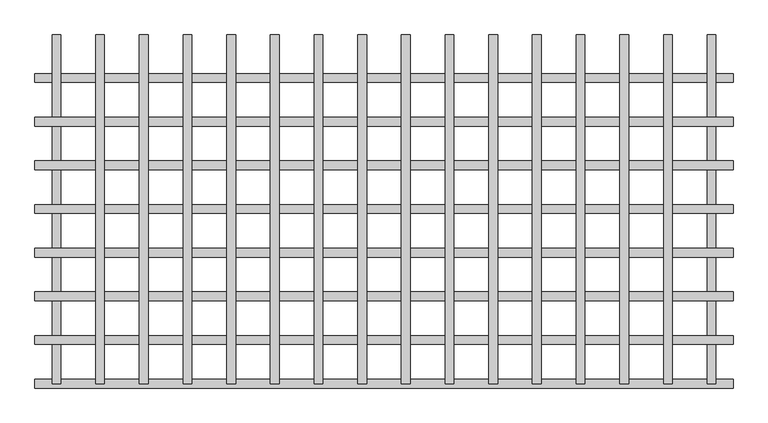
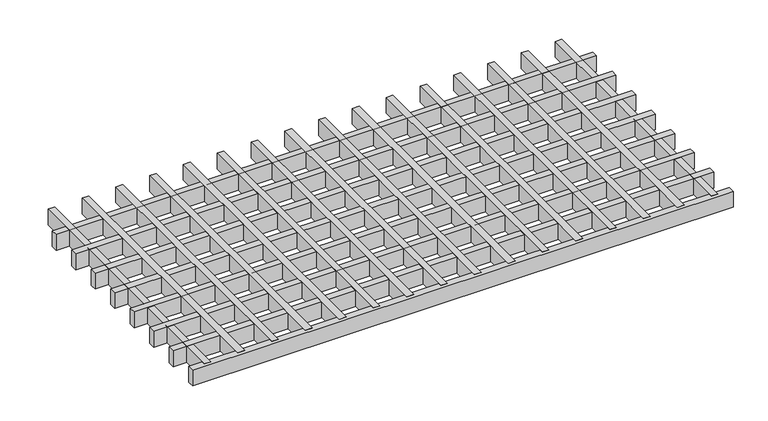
"""IFC4 building model written with IfcOpenShell, lengths in millimetres: proxy geometry, durlum_GEO_panel : durlum_GEO_15."""

import ifcopenshell
import ifcopenshell.guid

model = None  # the IFC model being written
_history = None  # IfcOwnerHistory: only IFC2X3 demands one
_inside = {}  # id of a spatial element -> (the spatial element, [elements in it])
_under = {}  # id of a project, library or spatial element -> (it, [spatial elements below it])
_declared = {}  # id of a project -> (the project, [libraries it declares])
_typed = {}  # id of a type object -> (the type object, [elements of that type])
_made_of = {}  # id of a material, layer set ... -> (it, [elements and type objects made of it])


def new_model(schema):
    """Start an empty IFC model of exactly this schema.

    Asked for "IFC4X3", IfcOpenShell would pick the latest addendum, in which some entities
    have other attributes; the version numbers below select the first issue.
    IFC2X3 requires an IfcOwnerHistory on every rooted entity: one is made here for all.
    """
    global model, _history
    if schema == "IFC4X3":
        model = ifcopenshell.file(schema_version=(4, 3, 0, 0))
    else:
        model = ifcopenshell.file(schema=schema)
    _inside.clear()
    _under.clear()
    _declared.clear()
    _typed.clear()
    _made_of.clear()
    _history = None
    if model.schema == "IFC2X3":
        org = make("IfcOrganization", Name="unknown")
        user = make(
            "IfcPersonAndOrganization",
            ThePerson=make("IfcPerson", FamilyName="unknown"),
            TheOrganization=org,
        )
        app = make(
            "IfcApplication",
            ApplicationDeveloper=org,
            Version="unknown",
            ApplicationFullName="unknown",
            ApplicationIdentifier="unknown",
        )
        _history = make(
            "IfcOwnerHistory",
            OwningUser=user,
            OwningApplication=app,
            ChangeAction="ADDED",
            CreationDate=0,
        )
    return model


def make(cls, **values):
    """One entity of the class cls with the attributes given. An attribute that is None is left unset."""
    return model.create_entity(
        cls, **{name: value for name, value in values.items() if value is not None}
    )


def rooted(cls, **values):
    """An entity with a GlobalId (a new one), such as an element, a storey or a relation."""
    return make(cls, GlobalId=ifcopenshell.guid.new(), OwnerHistory=_history, **values)


def si_unit(unit_type, name, prefix=None):
    """IfcSIUnit, for example si_unit("LENGTHUNIT", "METRE", prefix="MILLI")."""
    return make("IfcSIUnit", UnitType=unit_type, Prefix=prefix, Name=name)


def assignment(units):
    """IfcUnitAssignment: the units of a project."""
    return None if units is None else make("IfcUnitAssignment", Units=units)


def point(xyz):
    """IfcCartesianPoint."""
    return None if xyz is None else make("IfcCartesianPoint", Coordinates=xyz)


def direction(xyz):
    """IfcDirection."""
    return None if xyz is None else make("IfcDirection", DirectionRatios=xyz)


def frame(location, z_axis=None, x_axis=None):
    """IfcAxis2Placement3D, a coordinate frame: its origin and axes. An axis left out is left unset."""
    return make(
        "IfcAxis2Placement3D",
        Location=point(location),
        Axis=direction(z_axis),
        RefDirection=direction(x_axis),
    )


def origin():
    """The frame at (0, 0, 0) with its axes left unset."""
    return frame((0.0, 0.0, 0.0))


def origin_with_axes():
    """The frame at (0, 0, 0) with the z axis (0, 0, 1) and the x axis (1, 0, 0) written out."""
    return frame((0.0, 0.0, 0.0), z_axis=(0.0, 0.0, 1.0), x_axis=(1.0, 0.0, 0.0))


def place(relative_to, where):
    """IfcLocalPlacement: puts the frame where relative to a parent placement (None: the world)."""
    return make(
        "IfcLocalPlacement", PlacementRelTo=relative_to, RelativePlacement=where
    )


def context(
    kind, dimensions, precision=None, world=None, true_north=None, identifier=None
):
    """IfcGeometricRepresentationContext, for example the 3D "Model" context."""
    return make(
        "IfcGeometricRepresentationContext",
        ContextIdentifier=identifier,
        ContextType=kind,
        CoordinateSpaceDimension=dimensions,
        Precision=precision,
        WorldCoordinateSystem=world,
        TrueNorth=true_north,
    )


def project(units=None, contexts=None):
    """IfcProject with its units and contexts."""
    return rooted(
        "IfcProject",
        Name="project",
        RepresentationContexts=contexts,
        UnitsInContext=assignment(units),
    )


def spatial(cls, under=None, at=None, **own):
    """A site, building, storey or space (cls), placed at a placement, below another one or the project."""
    s = rooted(cls, ObjectPlacement=at, **own)
    if under is not None:
        _under.setdefault(under.id(), (under, []))[1].append(s)
    return s


def polyline(points):
    """IfcPolyline through the points."""
    return make("IfcPolyline", Points=[point(p) for p in points])


def outline(outer, holes=None, kind="AREA"):
    """IfcArbitraryClosedProfileDef: a profile drawn as a closed curve; with holes, ...WithVoids."""
    if holes is None:
        return make("IfcArbitraryClosedProfileDef", ProfileType=kind, OuterCurve=outer)
    return make(
        "IfcArbitraryProfileDefWithVoids",
        ProfileType=kind,
        OuterCurve=outer,
        InnerCurves=holes,
    )


def extrude(swept, where, along, depth):
    """IfcExtrudedAreaSolid: the profile swept, set in the frame where, extruded along a direction by depth."""
    return make(
        "IfcExtrudedAreaSolid",
        SweptArea=swept,
        Position=where,
        ExtrudedDirection=direction(along),
        Depth=depth,
    )


def shape(context_of_items, identifier, shape_type, items):
    """IfcShapeRepresentation: the items that make up one representation, for example the "Body"."""
    return make(
        "IfcShapeRepresentation",
        ContextOfItems=context_of_items,
        RepresentationIdentifier=identifier,
        RepresentationType=shape_type,
        Items=items,
    )


def source(mapping_origin, context_of_items, identifier, shape_type, items):
    """IfcRepresentationMap: a shape defined once, which mapped items show again and again."""
    return make(
        "IfcRepresentationMap",
        MappingOrigin=mapping_origin,
        MappedRepresentation=shape(context_of_items, identifier, shape_type, items),
    )


def transform(
    local_origin,
    x_axis=None,
    y_axis=None,
    z_axis=None,
    scale=None,
    scale2=None,
    scale3=None,
    uniform=True,
):
    """IfcCartesianTransformationOperator3D, or its non-uniform kind. x_axis, y_axis, z_axis: its Axis1, 2, 3."""
    if uniform:
        return make(
            "IfcCartesianTransformationOperator3D",
            Axis1=direction(x_axis),
            Axis2=direction(y_axis),
            LocalOrigin=point(local_origin),
            Scale=scale,
            Axis3=direction(z_axis),
        )
    return make(
        "IfcCartesianTransformationOperator3DnonUniform",
        Axis1=direction(x_axis),
        Axis2=direction(y_axis),
        LocalOrigin=point(local_origin),
        Scale=scale,
        Axis3=direction(z_axis),
        Scale2=scale2,
        Scale3=scale3,
    )


def mapped(mapping_source, mapping_target):
    """IfcMappedItem: shows the shape of a source again, moved by a transform."""
    return make(
        "IfcMappedItem", MappingSource=mapping_source, MappingTarget=mapping_target
    )


def made_of(thing, what):
    """Note that an element or type object is made of a material, layer set ...; save() writes the relation."""
    if what is not None:
        _made_of.setdefault(what.id(), (what, []))[1].append(thing)
    return thing


def element(
    cls,
    number,
    at=None,
    inside=None,
    cuts=None,
    type_object=None,
    material=None,
    context=None,
    identifier="Body",
    shape_type=None,
    held_by="IfcProductDefinitionShape",
    body=None,
    shapes=None,
    **own,
):
    """One element of the class cls, such as IfcWall. Its Tag is "e" and its number.

    at: its placement. inside: the storey or other place that contains it. cuts: it is an
    opening in that element (IfcRelVoidsElement). A single representation is given by context,
    identifier, shape_type and body (its items); several are given by shapes. held_by: the class
    of the entity that holds the representations. save() writes the other relations.
    """
    e = rooted(cls, Tag="e%d" % number, ObjectPlacement=at, **own)
    if body is not None:
        shapes = [shape(context, identifier, shape_type, body)]
    if shapes is not None:
        e.Representation = make(held_by, Representations=shapes)
    if inside is not None:
        _inside.setdefault(inside.id(), (inside, []))[1].append(e)
    if cuts is not None:
        rooted(
            "IfcRelVoidsElement", RelatingBuildingElement=cuts, RelatedOpeningElement=e
        )
    if type_object is not None:
        _typed.setdefault(type_object.id(), (type_object, []))[1].append(e)
    return made_of(e, material)


def aggregate(whole, parts):
    """IfcRelAggregates: a whole, such as a stair, and the parts it consists of."""
    return rooted("IfcRelAggregates", RelatingObject=whole, RelatedObjects=parts)


def save(model, path):
    """Write the relations noted so far, then the file.

    IfcRelAggregates (storeys below a building ...), IfcRelContainedInSpatialStructure (elements
    in a storey), IfcRelDefinesByType, IfcRelAssociatesMaterial and IfcRelDeclares: one each for
    every whole, place, type object, material and project.
    """
    for whole, parts in _under.values():
        aggregate(whole, parts)
    for where, things in _inside.values():
        rooted(
            "IfcRelContainedInSpatialStructure",
            RelatedElements=things,
            RelatingStructure=where,
        )
    for kind, things in _typed.values():
        rooted("IfcRelDefinesByType", RelatedObjects=things, RelatingType=kind)
    for what, things in _made_of.values():
        rooted("IfcRelAssociatesMaterial", RelatedObjects=things, RelatingMaterial=what)
    for by, libraries in _declared.values():
        rooted("IfcRelDeclares", RelatingContext=by, RelatedDefinitions=libraries)
    model.write(path)


def generic_models_b45cf8b7(model_context):
    return source(origin(), model_context, "Body", "SweptSolid", [
        extrude(outline(polyline([(480.0, 299.5), (495.0, 299.5), (495.0, -299.5), (480.0, -299.5), (480.0, 299.5)])), origin_with_axes(), (0.0, 0.0, 1.0), 37.0),
        extrude(outline(polyline([(405.0, 299.5), (420.0, 299.5), (420.0, -299.5), (405.0, -299.5), (405.0, 299.5)])), origin_with_axes(), (0.0, 0.0, 1.0), 37.0),
        extrude(outline(polyline([(330.0, 299.5), (345.0, 299.5), (345.0, -299.5), (330.0, -299.5), (330.0, 299.5)])), origin_with_axes(), (0.0, 0.0, 1.0), 37.0),
        extrude(outline(polyline([(255.0, 299.5), (270.0, 299.5), (270.0, -299.5), (255.0, -299.5), (255.0, 299.5)])), origin_with_axes(), (0.0, 0.0, 1.0), 37.0),
        extrude(outline(polyline([(180.0, 299.5), (195.0, 299.5), (195.0, -299.5), (180.0, -299.5), (180.0, 299.5)])), origin_with_axes(), (0.0, 0.0, 1.0), 37.0),
        extrude(outline(polyline([(105.0, 299.5), (120.0, 299.5), (120.0, -299.5), (105.0, -299.5), (105.0, 299.5)])), origin_with_axes(), (0.0, 0.0, 1.0), 37.0),
        extrude(outline(polyline([(30.0, 299.5), (45.0, 299.5), (45.0, -299.5), (30.0, -299.5), (30.0, 299.5)])), origin_with_axes(), (0.0, 0.0, 1.0), 37.0),
        extrude(outline(polyline([(-45.0, 299.5), (-30.0, 299.5), (-30.0, -299.5), (-45.0, -299.5), (-45.0, 299.5)])), origin_with_axes(), (0.0, 0.0, 1.0), 37.0),
        extrude(outline(polyline([(-120.0, 299.5), (-105.0, 299.5), (-105.0, -299.5), (-120.0, -299.5), (-120.0, 299.5)])), origin_with_axes(), (0.0, 0.0, 1.0), 37.0),
        extrude(outline(polyline([(-195.0, 299.5), (-180.0, 299.5), (-180.0, -299.5), (-195.0, -299.5), (-195.0, 299.5)])), origin_with_axes(), (0.0, 0.0, 1.0), 37.0),
        extrude(outline(polyline([(-270.0, 299.5), (-255.0, 299.5), (-255.0, -299.5), (-270.0, -299.5), (-270.0, 299.5)])), origin_with_axes(), (0.0, 0.0, 1.0), 37.0),
        extrude(outline(polyline([(-345.0, 299.5), (-330.0, 299.5), (-330.0, -299.5), (-345.0, -299.5), (-345.0, 299.5)])), origin_with_axes(), (0.0, 0.0, 1.0), 37.0),
        extrude(outline(polyline([(-420.0, 299.5), (-405.0, 299.5), (-405.0, -299.5), (-420.0, -299.5), (-420.0, 299.5)])), origin_with_axes(), (0.0, 0.0, 1.0), 37.0),
        extrude(outline(polyline([(-495.0, 299.5), (-480.0, 299.5), (-480.0, -299.5), (-495.0, -299.5), (-495.0, 299.5)])), origin_with_axes(), (0.0, 0.0, 1.0), 37.0),
        extrude(outline(polyline([(599.5, -217.0), (599.5, -232.0), (-599.5, -232.0), (-599.5, -217.0), (599.5, -217.0)])), origin_with_axes(), (0.0, 0.0, 1.0), 37.0),
        extrude(outline(polyline([(599.5, -142.0), (599.5, -157.0), (-599.5, -157.0), (-599.5, -142.0), (599.5, -142.0)])), origin_with_axes(), (0.0, 0.0, 1.0), 37.0),
        extrude(outline(polyline([(599.5, -67.0), (599.5, -82.0), (-599.5, -82.0), (-599.5, -67.0), (599.5, -67.0)])), origin_with_axes(), (0.0, 0.0, 1.0), 37.0),
        extrude(outline(polyline([(599.5, 8.0), (599.5, -7.0), (-599.5, -7.0), (-599.5, 8.0), (599.5, 8.0)])), origin_with_axes(), (0.0, 0.0, 1.0), 37.0),
        extrude(outline(polyline([(599.5, 83.0), (599.5, 68.0), (-599.5, 68.0), (-599.5, 83.0), (599.5, 83.0)])), origin_with_axes(), (0.0, 0.0, 1.0), 37.0),
        extrude(outline(polyline([(599.5, 158.0), (599.5, 143.0), (-599.5, 143.0), (-599.5, 158.0), (599.5, 158.0)])), origin_with_axes(), (0.0, 0.0, 1.0), 37.0),
        extrude(outline(polyline([(555.0, 299.5), (570.0, 299.5), (570.0, -299.5), (555.0, -299.5), (555.0, 299.5)])), origin_with_axes(), (0.0, 0.0, 1.0), 37.0),
        extrude(outline(polyline([(-570.0, 299.5), (-555.0, 299.5), (-555.0, -299.5), (-570.0, -299.5), (-570.0, 299.5)])), origin_with_axes(), (0.0, 0.0, 1.0), 37.0),
        extrude(outline(polyline([(599.5, -292.0), (599.5, -307.0), (-599.5, -307.0), (-599.5, -292.0), (599.5, -292.0)])), origin_with_axes(), (0.0, 0.0, 1.0), 37.0),
        extrude(outline(polyline([(599.5, 233.0), (599.5, 218.0), (-599.5, 218.0), (-599.5, 233.0), (599.5, 233.0)])), origin_with_axes(), (0.0, 0.0, 1.0), 37.0),
    ])


if __name__ == "__main__":
    model = new_model("IFC4")
    model_context = context("Model", 3, world=origin())
    ifc_project = project(units=[si_unit("LENGTHUNIT", "METRE", prefix="MILLI")], contexts=[model_context])
    site = spatial("IfcSite", under=ifc_project)
    building = spatial("IfcBuilding", under=site)
    placement = place(None, origin())
    generic_models_shape = generic_models_b45cf8b7(model_context)
    element("IfcBuildingElementProxy", 1, Name="durlum_GEO_panel : durlum_GEO_15", ObjectType="durlum_GEO_panel : durlum_GEO_15", at=placement, inside=building, context=model_context, shape_type="MappedRepresentation", body=[
        mapped(generic_models_shape, transform((0.0, 0.0, 0.0), x_axis=(1.0, 0.0, 0.0), y_axis=(0.0, 1.0, 0.0), z_axis=(0.0, 0.0, 1.0))),
    ])
    save(model, "model.ifc")
